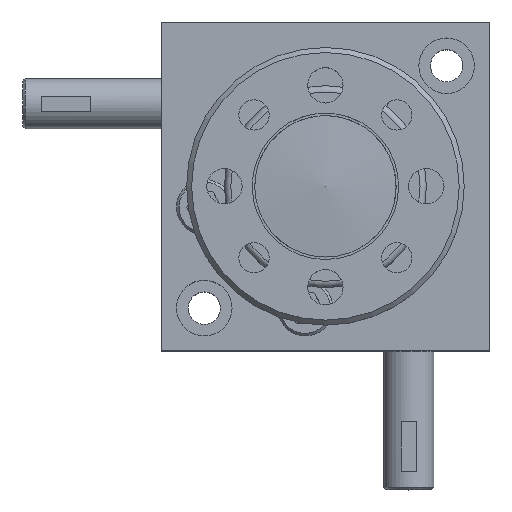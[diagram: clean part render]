
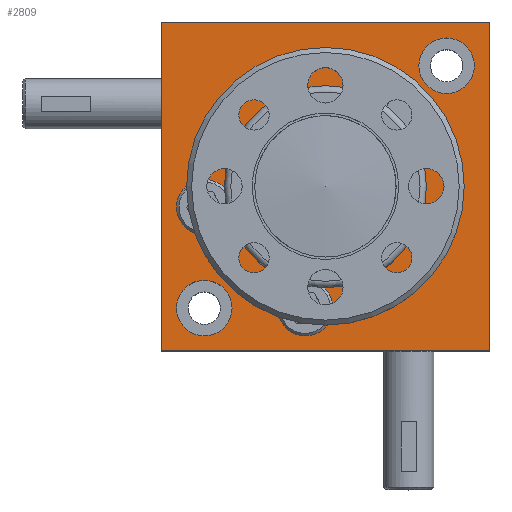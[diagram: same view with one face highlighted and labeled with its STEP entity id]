
A CAD part, top view. The second image highlights one B-rep face of the part: STEP entity #2809.
In plain terms, the highlighted planar face has unit normal (0, 0, 1) as drawn and (0, 0, -1) by its records, which use the part's own axes.
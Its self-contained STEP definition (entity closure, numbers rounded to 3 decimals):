
#2809=ADVANCED_FACE('',(#5961,#5962,#5963,#5964,#5965,#5966,#5967),#5968,.F.);
#5961=FACE_OUTER_BOUND('',#11285,.T.);
#5962=FACE_BOUND('',#11286,.T.);
#5963=FACE_BOUND('',#11287,.T.);
#5964=FACE_BOUND('',#11288,.T.);
#5965=FACE_BOUND('',#11289,.T.);
#5966=FACE_BOUND('',#11290,.T.);
#5967=FACE_BOUND('',#11291,.T.);
#5968=PLANE('',#11292);
#11285=EDGE_LOOP('',(#20151,#20152,#20153,#20154));
#11286=EDGE_LOOP('',(#20155));
#11287=EDGE_LOOP('',(#20156));
#11288=EDGE_LOOP('',(#20157));
#11289=EDGE_LOOP('',(#20158));
#11290=EDGE_LOOP('',(#20159));
#11291=EDGE_LOOP('',(#20160));
#11292=AXIS2_PLACEMENT_3D('',#20161,#20162,#20163);
#20151=ORIENTED_EDGE('',*,*,#39613,.F.);
#20152=ORIENTED_EDGE('',*,*,#39583,.F.);
#20153=ORIENTED_EDGE('',*,*,#39614,.F.);
#20154=ORIENTED_EDGE('',*,*,#39615,.F.);
#20155=ORIENTED_EDGE('',*,*,#39616,.F.);
#20156=ORIENTED_EDGE('',*,*,#39586,.T.);
#20157=ORIENTED_EDGE('',*,*,#39617,.T.);
#20158=ORIENTED_EDGE('',*,*,#39618,.T.);
#20159=ORIENTED_EDGE('',*,*,#39601,.T.);
#20160=ORIENTED_EDGE('',*,*,#39619,.T.);
#20161=CARTESIAN_POINT('',(0.0,0.0,-17.0));
#20162=DIRECTION('',(0.,0.,1.0));
#20163=DIRECTION('',(1.0,0.,0.));
#39583=EDGE_CURVE('',#47391,#47393,#47394,.T.);
#39586=EDGE_CURVE('',#47398,#47398,#47399,.T.);
#39601=EDGE_CURVE('',#47427,#47427,#47428,.T.);
#39613=EDGE_CURVE('',#47393,#47449,#47450,.T.);
#39614=EDGE_CURVE('',#47451,#47391,#47452,.T.);
#39615=EDGE_CURVE('',#47449,#47451,#47453,.T.);
#39616=EDGE_CURVE('',#47454,#47454,#47455,.T.);
#39617=EDGE_CURVE('',#47456,#47456,#47457,.T.);
#39618=EDGE_CURVE('',#47458,#47458,#47459,.T.);
#39619=EDGE_CURVE('',#47460,#47460,#47461,.T.);
#47391=VERTEX_POINT('',#60523);
#47393=VERTEX_POINT('',#60526);
#47394=LINE('',#60527,#60528);
#47398=VERTEX_POINT('',#60534);
#47399=CIRCLE('',#60535,5.5);
#47427=VERTEX_POINT('',#60573);
#47428=CIRCLE('',#60574,5.5);
#47449=VERTEX_POINT('',#60603);
#47450=LINE('',#60604,#60605);
#47451=VERTEX_POINT('',#60606);
#47452=LINE('',#60607,#60608);
#47453=LINE('',#60609,#60610);
#47454=VERTEX_POINT('',#60611);
#47455=CIRCLE('',#60612,12.5);
#47456=VERTEX_POINT('',#60613);
#47457=CIRCLE('',#60614,5.5);
#47458=VERTEX_POINT('',#60615);
#47459=CIRCLE('',#60616,5.5);
#47460=VERTEX_POINT('',#60617);
#47461=CIRCLE('',#60618,5.5);
#60523=CARTESIAN_POINT('',(32.5,32.5,-17.0));
#60526=CARTESIAN_POINT('',(-32.5,32.5,-17.0));
#60527=CARTESIAN_POINT('',(0.0,32.5,-17.0));
#60528=VECTOR('',#81756,1.0);
#60534=CARTESIAN_POINT('',(29.5,24.0,-17.0));
#60535=AXIS2_PLACEMENT_3D('',#81759,#81760,#81761);
#60573=CARTESIAN_POINT('',(1.5,-24.0,-17.0));
#60574=AXIS2_PLACEMENT_3D('',#81784,#81785,#81786);
#60603=CARTESIAN_POINT('',(-32.5,-32.5,-17.0));
#60604=CARTESIAN_POINT('',(-32.5,0.,-17.0));
#60605=VECTOR('',#81804,1.0);
#60606=CARTESIAN_POINT('',(32.5,-32.5,-17.0));
#60607=CARTESIAN_POINT('',(32.5,0.,-17.0));
#60608=VECTOR('',#81805,1.0);
#60609=CARTESIAN_POINT('',(0.,-32.5,-17.0));
#60610=VECTOR('',#81806,1.0);
#60611=CARTESIAN_POINT('',(12.5,0.0,-17.0));
#60612=AXIS2_PLACEMENT_3D('',#81807,#81808,#81809);
#60613=CARTESIAN_POINT('',(-18.5,-4.0,-17.0));
#60614=AXIS2_PLACEMENT_3D('',#81810,#81811,#81812);
#60615=CARTESIAN_POINT('',(-18.5,-24.0,-17.0));
#60616=AXIS2_PLACEMENT_3D('',#81813,#81814,#81815);
#60617=CARTESIAN_POINT('',(20.5,15.0,-17.0));
#60618=AXIS2_PLACEMENT_3D('',#81816,#81817,#81818);
#81756=DIRECTION('',(-1.0,0.0,0.));
#81759=CARTESIAN_POINT('',(24.0,24.0,-17.0));
#81760=DIRECTION('',(0.0,0.0,1.0));
#81761=DIRECTION('',(1.0,0.0,0.0));
#81784=CARTESIAN_POINT('',(-4.0,-24.0,-17.0));
#81785=DIRECTION('',(0.0,0.0,1.0));
#81786=DIRECTION('',(1.0,0.0,0.0));
#81804=DIRECTION('',(0.0,-1.0,0.));
#81805=DIRECTION('',(0.0,1.0,0.));
#81806=DIRECTION('',(1.0,0.0,0.));
#81807=CARTESIAN_POINT('',(0.0,0.0,-17.0));
#81808=DIRECTION('',(0.0,0.0,-1.0));
#81809=DIRECTION('',(1.0,0.0,0.0));
#81810=CARTESIAN_POINT('',(-24.0,-4.0,-17.0));
#81811=DIRECTION('',(0.0,0.0,1.0));
#81812=DIRECTION('',(1.0,0.0,0.0));
#81813=CARTESIAN_POINT('',(-24.0,-24.0,-17.0));
#81814=DIRECTION('',(0.0,0.0,1.0));
#81815=DIRECTION('',(1.0,0.0,0.0));
#81816=CARTESIAN_POINT('',(15.0,15.0,-17.0));
#81817=DIRECTION('',(0.0,0.0,1.0));
#81818=DIRECTION('',(1.0,0.0,0.0));
